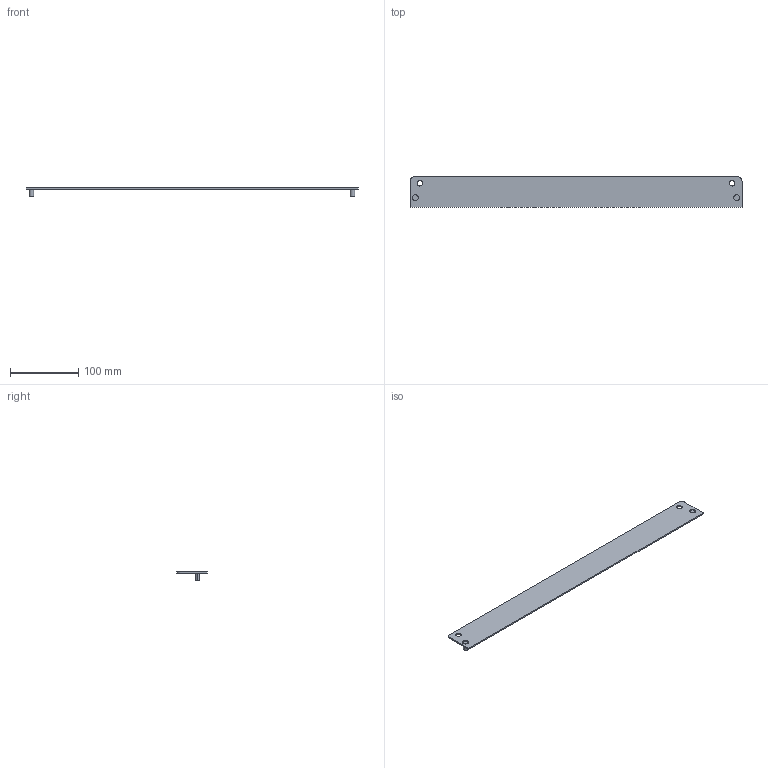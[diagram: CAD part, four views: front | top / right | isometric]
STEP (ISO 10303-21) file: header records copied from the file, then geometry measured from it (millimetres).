
FILE_DESCRIPTION((''),'2;1');
FILE_NAME('SCE-NMST_ASM','2010-07-16T',('mikek'),(''),'PRO/ENGINEER BY PARAMETRIC TECHNOLOGY CORPORATION, 2009230','PRO/ENGINEER BY PARAMETRIC TECHNOLOGY CORPORATION, 2009230','');
FILE_SCHEMA(('AUTOMOTIVE_DESIGN { 1 0 10303 214 1 1 1 1 }'));
Length unit declared in the file: inch
Products named in the file (3): SCE-NMST-MOUNTING-STRAP; 100057; SCE-NMST_ASM
Assembly tree (3 placements, depth 2):
  SCE-NMST_ASM
    SCE-NMST-MOUNTING-STRAP
    100057  x2
Bounding box: 485.77 x 44.45 x 12.7 mm (x, y, z)
Volume: 43238.7 mm3; surface area: 45827.9 mm2
Topology: 3 solids, 3 shells, 34 faces, 74 edges, 48 vertices
Faces by surface type: cylinder 18, plane 12, cone 4
Entity records: 949 total; most frequent: DIRECTION 150, CARTESIAN_POINT 133, ORIENTED_EDGE 116, AXIS2_PLACEMENT_3D 61, EDGE_CURVE 58, VERTEX_POINT 38, EDGE_LOOP 34, CIRCLE 30
